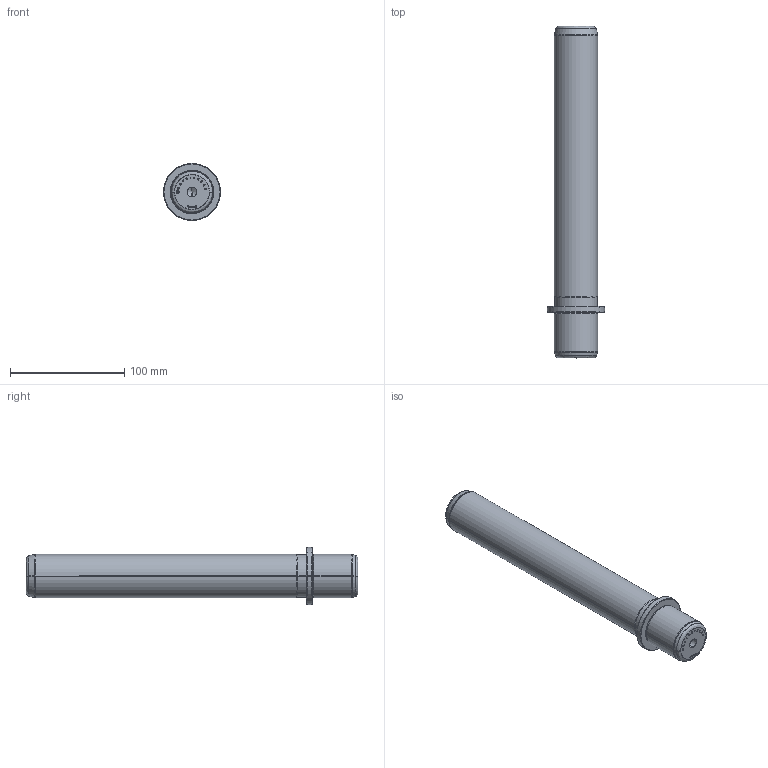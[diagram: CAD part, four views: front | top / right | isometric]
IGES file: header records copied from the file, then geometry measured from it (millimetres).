
Start section: SolidWorks IGES file using analytic representation for surfaces
Global section: file name: D:\Cleonir_arquivos\MT_15_07\Pinos Desmontáveis\PFG38250.igs; native system: SolidWorks 2013; preprocessor: SolidWorks 2013; author: Cleonir; date: 130730.162459; units: millimetre
Bounding box: 50 x 290 x 50 mm (x, y, z)
Surface area: 39720.5 mm2 (no closed solid volume)
Topology: 0 solids, 0 shells, 328 faces, 4013 edges, 4009 vertices
Faces by surface type: bspline 287, revolution 41
